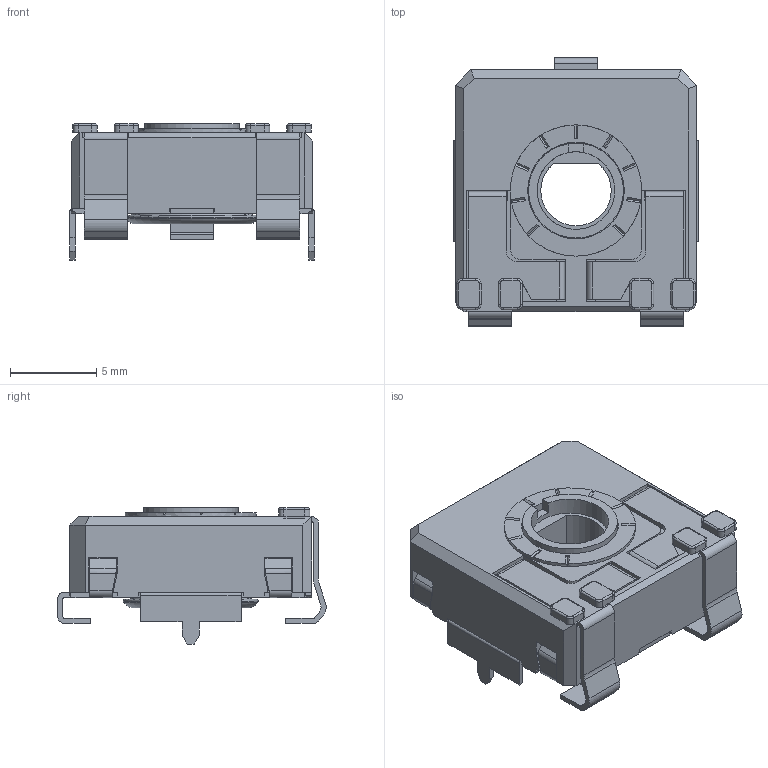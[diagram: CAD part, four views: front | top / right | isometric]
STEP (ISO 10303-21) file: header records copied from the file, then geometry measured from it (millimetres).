
FILE_DESCRIPTION(/* description */ (''),/* implementation_level */ '2;1');
FILE_NAME(/* name */ '\\SERVERACP\intercambio\Ignacio Santa Cecilia\Nueva WEB 2025\CA14 - CE14\CA14DVSMD CY.stp',/* time_stamp */ '2025-07-01T12:17:54+02:00',/* author */ ('CEM'),/* organization */ (''),/* preprocessor_version */ 'ST-DEVELOPER v17',/* originating_system */ 'Autodesk Inventor 2018',/* authorisation */ '');
FILE_SCHEMA (('AUTOMOTIVE_DESIGN { 1 0 10303 214 3 1 1 }'));
Length unit declared in the file: millimetre
Products named in the file (1): CARCASA CA14 PGA
Bounding box: 14.15 x 15.55 x 7.9 mm (x, y, z)
Volume: 540.8 mm3; surface area: 1516.1 mm2
Topology: 1 solids, 1 shells, 569 faces, 1617 edges, 1035 vertices
Faces by surface type: plane 424, cylinder 108, torus 23, bspline 8, cone 6
Full cylindrical faces by diameter (mm): 4.5 x1, 5.5 x1, 5.6 x1, 5.752 x1, 6.8 x1, 7.6 x1
Entity records: 18729 total; most frequent: CARTESIAN_POINT 3519, ORIENTED_EDGE 3234, DIRECTION 2997, EDGE_CURVE 1617, LINE 1271, VECTOR 1271, VERTEX_POINT 1035, AXIS2_PLACEMENT_3D 863
